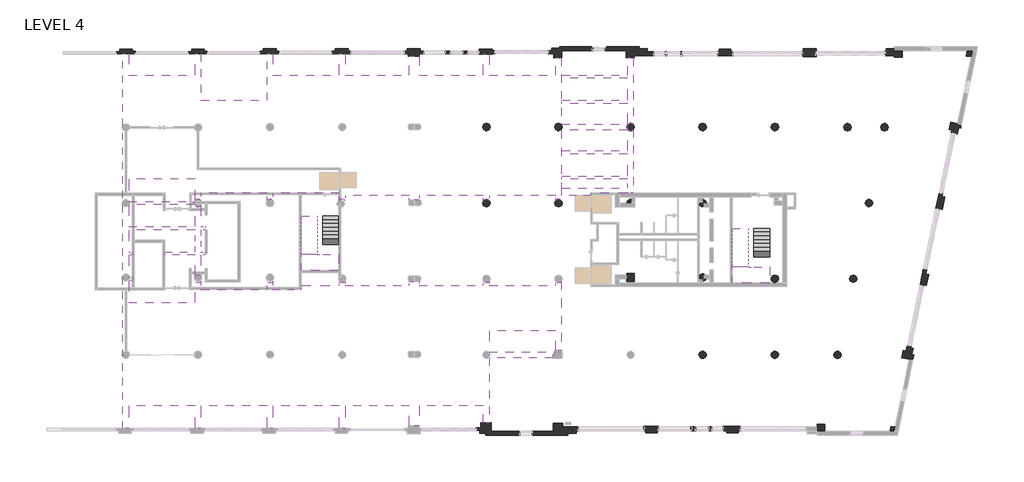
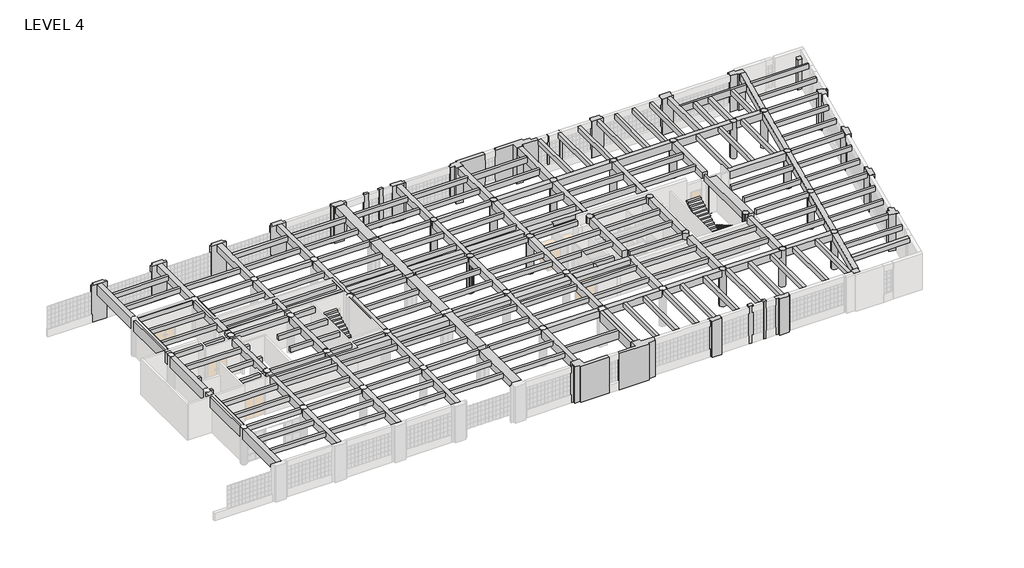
# One storey, part 26 of 26: 47 columns, 4 stair flights, 2 slabs, 1 beam.
"""IFC4 building model written with IfcOpenShell, lengths in millimetres."""

from ifc_helpers import new_model, si_unit, point, frame_2d, origin, origin_with_axes, place, context, project, spatial, polyline, circle_curve, trimmed, segment, composite_curve, outline, extrude, faceted_brep, transform, mapped, element, save
from components import existing_beams_existing_beams_2622cb17, existing_beams_existing_beams_62673a28, existing_beams_existing_beams_ab87c5f7, column_8a548fa0, column_79061b7a, columns_10_columns_1_1345206f, columns_11_columns_1_38dbda88, columns_15_columns_1_a5632d5a, columns_16_columns_1_e686ee1a, columns_18_columns_1_02ec0be3, columns_26_columns_1_af52d835, columns_27_columns_1_d9d9b695, columns_28_columns_1_034667f4, columns_4_columns_1_804c0b7f, columns_7_columns_1_82286abc, columns_9_columns_1_d757668a, column_50414aac, column_10b8ecd9, concrete_square_column_24_x_24_a4109c9c, precast_rectangular_column_10_x_12_6271d5be, precast_rectangular_column_15x_8_fcbcd41b, precast_rectangular_column_16_x_10_d0502e23, precast_rectangular_column_16_x_18_bd0b0462

model = new_model("IFC4")

# Units and contexts
model_context = context("Model", 3, world=origin())
ifc_project = project(units=[si_unit("LENGTHUNIT", "METRE", prefix="MILLI")], contexts=[model_context])

# Site, building, storey
site = spatial("IfcSite", under=ifc_project)
building = spatial("IfcBuilding", under=site)
storey = spatial("IfcBuildingStorey", under=building, Name="LEVEL 4", Elevation=0.0)

# Beam
placement = place(None, origin())
existing_beams_existing_beams_shape = existing_beams_existing_beams_2622cb17(model_context)
existing_beams_existing_beams_2_shape = existing_beams_existing_beams_62673a28(model_context)
existing_beams_existing_beams_3_shape = existing_beams_existing_beams_ab87c5f7(model_context)
element("IfcBeam", 1, ObjectType="Existing Beams : Existing Beams", at=placement, inside=storey, context=model_context, shape_type="MappedRepresentation", body=[
    mapped(existing_beams_existing_beams_shape, transform((0.0, 0.0, 0.0), x_axis=(1.0, 0.0, 0.0), y_axis=(0.0, 1.0, 0.0), z_axis=(0.0, 0.0, 1.0))),
    mapped(existing_beams_existing_beams_2_shape, transform((0.0, 0.0, 0.0), x_axis=(1.0, 0.0, 0.0), y_axis=(0.0, 1.0, 0.0), z_axis=(0.0, 0.0, 1.0))),
    mapped(existing_beams_existing_beams_3_shape, transform((0.0, 0.0, 0.0), x_axis=(1.0, 0.0, 0.0), y_axis=(0.0, 1.0, 0.0), z_axis=(0.0, 0.0, 1.0))),
])

# Columns
column_shape = column_8a548fa0(model_context)
element("IfcColumn", 2, ObjectType="COLUMN (SOUTHEAST CORNER) : COLUMN (SOUTHEAST CORNER)", at=placement, inside=storey, context=model_context, shape_type="MappedRepresentation", body=[
    mapped(column_shape, transform((0.0, 0.0, 0.0), x_axis=(1.0, 0.0, 0.0), y_axis=(0.0, 1.0, 0.0), z_axis=(0.0, 0.0, 1.0))),
])
column_2_shape = column_79061b7a(model_context)
element("IfcColumn", 3, ObjectType="COLUMN - NORTHEAST CORNER : COLUMN - NORTHEAST CORNER", at=placement, inside=storey, context=model_context, shape_type="MappedRepresentation", body=[
    mapped(column_2_shape, transform((0.0, 0.0, 0.0), x_axis=(1.0, 0.0, 0.0), y_axis=(0.0, 1.0, 0.0), z_axis=(0.0, 0.0, 1.0))),
])
columns_10_columns_1_shape = columns_10_columns_1_1345206f(model_context)
element("IfcColumn", 4, ObjectType="Columns 10 : Columns 1", at=placement, inside=storey, context=model_context, shape_type="MappedRepresentation", body=[
    mapped(columns_10_columns_1_shape, transform((0.0, 0.0, 0.0), x_axis=(1.0, 0.0, 0.0), y_axis=(0.0, 1.0, 0.0), z_axis=(0.0, 0.0, 1.0))),
])
columns_11_columns_1_shape = columns_11_columns_1_38dbda88(model_context)
element("IfcColumn", 5, ObjectType="Columns 11 : Columns 1", at=placement, inside=storey, context=model_context, shape_type="MappedRepresentation", body=[
    mapped(columns_11_columns_1_shape, transform((0.0, 0.0, 0.0), x_axis=(1.0, 0.0, 0.0), y_axis=(0.0, 1.0, 0.0), z_axis=(0.0, 0.0, 1.0))),
])
element("IfcColumn", 6, ObjectType="Columns 12 : Columns 1", at=placement, inside=storey, context=model_context, shape_type="SweptSolid", body=[
    extrude(outline(polyline([(21422.2248783, 106093.8583044), (21698.1909084, 106036.8748124), (21653.8999831, 105822.3777641), (21875.4385995, 105776.6328441), (21672.7354044, 104794.9591327), (21448.8583134, 104841.1869181), (21441.5996142, 104806.0336776), (21167.9720586, 104862.5343041), (21422.2248783, 106093.8583044)])), origin_with_axes(), (0.0, 0.0, 1.0), 3657.6),
])
element("IfcColumn", 7, ObjectType="Columns 13 : Columns 1", at=placement, inside=storey, context=model_context, shape_type="SweptSolid", body=[
    extrude(outline(polyline([(20180.5683622, 100086.739741), (20456.5343924, 100029.756249), (20387.2983583, 99694.4522374), (20608.8369748, 99648.7073174), (20423.9258332, 98753.1989535), (20201.2596835, 98799.1766949), (20188.3129879, 98736.4769893), (19913.4744911, 98793.2276599), (20180.5683622, 100086.739741)])), origin_with_axes(), (0.0, 0.0, 1.0), 3657.6),
])
element("IfcColumn", 8, ObjectType="Columns 14 : Columns 1", at=placement, inside=storey, context=model_context, shape_type="SweptSolid", body=[
    extrude(outline(polyline([(-9539.3085473, 117392.218307), (-9272.6085473, 117392.218307), (-9272.6085473, 117595.418307), (-8643.9585473, 117595.418307), (-8643.9585473, 117722.418307), (-6095.702993, 117722.418307), (-6095.702993, 117595.418307), (-6034.1085473, 117595.418307), (-6034.1085473, 117392.218307), (-8469.1684696, 117392.218307), (-8469.1684696, 116843.8805877), (-8469.1684696, 116831.1805877), (-9104.1684696, 116831.1805877), (-9104.1684696, 117138.218307), (-9539.3085473, 117138.218307), (-9539.3085473, 117392.218307)])), origin_with_axes(), (0.0, 0.0, 1.0), 3657.6),
    extrude(outline(polyline([(-5056.2085473, 117392.218307), (-5056.2085473, 117595.418307), (-4916.5085473, 117595.418307), (-4916.5085473, 117722.418307), (-2344.7585473, 117722.418307), (-2344.7585473, 117538.0497208), (-1715.7240125, 117538.0497208), (-1715.7240125, 117313.5591334), (-1177.9460473, 117313.5591334), (-1177.9460473, 117004.6497208), (-2731.7240125, 117004.6497208), (-2731.7240125, 116833.418307), (-3366.7240125, 116833.418307), (-3366.7240125, 117392.218307), (-5056.2085473, 117392.218307)])), origin_with_axes(), (0.0, 0.0, 1.0), 3657.6),
])
columns_15_columns_1_shape = columns_15_columns_1_a5632d5a(model_context)
element("IfcColumn", 9, ObjectType="Columns 15 : Columns 1", at=placement, inside=storey, context=model_context, shape_type="MappedRepresentation", body=[
    mapped(columns_15_columns_1_shape, transform((0.0, 0.0, 0.0), x_axis=(1.0, 0.0, 0.0), y_axis=(0.0, 1.0, 0.0), z_axis=(0.0, 0.0, 1.0))),
])
columns_16_columns_1_shape = columns_16_columns_1_e686ee1a(model_context)
element("IfcColumn", 10, ObjectType="Columns 16 : Columns 1", at=placement, inside=storey, context=model_context, shape_type="MappedRepresentation", body=[
    mapped(columns_16_columns_1_shape, transform((0.0, 0.0, 0.0), x_axis=(1.0, 0.0, 0.0), y_axis=(0.0, 1.0, 0.0), z_axis=(0.0, 0.0, 1.0))),
])
element("IfcColumn", 11, ObjectType="Columns 17 : Columns 1", at=placement, inside=storey, context=model_context, shape_type="SweptSolid", body=[
    extrude(outline(polyline([(18812.6683675, 93581.6110622), (18876.0353386, 93888.4917194), (18900.9105709, 93883.3552988), (18928.4926772, 94016.9330087), (19202.1202328, 93960.4323821), (19174.5381266, 93826.8546722), (19373.5399852, 93785.7633074), (19270.8116271, 93288.2589217), (19420.0623744, 93257.4372668), (19336.1417877, 92851.0603112), (18465.5086561, 93030.8350322), (18588.7827505, 93627.8406081), (18812.6683675, 93581.6110622)])), origin_with_axes(), (0.0, 0.0, 1.0), 3657.6),
])
columns_18_columns_1_shape = columns_18_columns_1_02ec0be3(model_context)
element("IfcColumn", 12, ObjectType="Columns 18 : Columns 1", at=placement, inside=storey, context=model_context, shape_type="MappedRepresentation", body=[
    mapped(columns_18_columns_1_shape, transform((0.0, 0.0, 0.0), x_axis=(1.0, 0.0, 0.0), y_axis=(0.0, 1.0, 0.0), z_axis=(0.0, 0.0, 1.0))),
])
element("IfcColumn", 13, ObjectType="Columns 19 : Columns 1", at=placement, inside=storey, context=model_context, shape_type="SweptSolid", body=[
    extrude(outline(polyline([(17870.8181141, 117008.7591334), (17164.328891, 117008.7591334), (17164.328891, 117341.3251661), (17232.2914527, 117341.3251661), (17232.2914527, 117542.1591334), (17870.8181141, 117542.1591334), (17870.8181141, 117392.3555855), (18505.8181141, 117392.3555855), (18505.8181141, 116858.9555855), (17870.8181141, 116858.9555855), (17870.8181141, 117008.7591334)])), origin_with_axes(), (0.0, 0.0, 1.0), 3657.6),
])
element("IfcColumn", 14, ObjectType="Columns 25 : Columns 1", at=placement, inside=storey, context=model_context, shape_type="SweptSolid", body=[
    extrude(outline(polyline([(-155.5960473, 117313.0919271), (-155.5960473, 117006.7044271), (-263.5460473, 117006.7044271), (-263.5460473, 117313.0919271), (-155.5960473, 117313.0919271)])), origin_with_axes(), (0.0, 0.0, 1.0), 3657.6),
    extrude(outline(polyline([(1082.6539527, 117313.8856771), (1082.6539527, 117008.7591334), (936.6039527, 117008.7591334), (936.6039527, 117313.8856771), (1082.6539527, 117313.8856771)])), origin_with_axes(), (0.0, 0.0, 1.0), 3657.6),
])
columns_26_columns_1_shape = columns_26_columns_1_af52d835(model_context)
element("IfcColumn", 15, ObjectType="Columns 26 : Columns 1", at=placement, inside=storey, context=model_context, shape_type="MappedRepresentation", body=[
    mapped(columns_26_columns_1_shape, transform((0.0, 0.0, 0.0), x_axis=(1.0, 0.0, 0.0), y_axis=(0.0, 1.0, 0.0), z_axis=(0.0, 0.0, 1.0))),
])
columns_27_columns_1_shape = columns_27_columns_1_d9d9b695(model_context)
element("IfcColumn", 16, ObjectType="Columns 27 : Columns 1", at=placement, inside=storey, context=model_context, shape_type="MappedRepresentation", body=[
    mapped(columns_27_columns_1_shape, transform((0.0, 0.0, 0.0), x_axis=(1.0, 0.0, 0.0), y_axis=(0.0, 1.0, 0.0), z_axis=(0.0, 0.0, 1.0))),
])
columns_28_columns_1_shape = columns_28_columns_1_034667f4(model_context)
element("IfcColumn", 17, ObjectType="Columns 28 : Columns 1", at=placement, inside=storey, context=model_context, shape_type="MappedRepresentation", body=[
    mapped(columns_28_columns_1_shape, transform((0.0, 0.0, 0.0), x_axis=(1.0, 0.0, 0.0), y_axis=(0.0, 1.0, 0.0), z_axis=(0.0, 0.0, 1.0))),
])
columns_4_columns_1_shape = columns_4_columns_1_804c0b7f(model_context)
element("IfcColumn", 18, ObjectType="Columns 4 : Columns 1", at=placement, inside=storey, context=model_context, shape_type="MappedRepresentation", body=[
    mapped(columns_4_columns_1_shape, transform((36036.7637029, 0.0, 0.0), x_axis=(1.0, 0.0, 0.0), y_axis=(0.0, 1.0, 0.0), z_axis=(0.0, 0.0, 1.0))),
])
element("IfcColumn", 19, ObjectType="Columns 5 : Columns 1", at=placement, inside=storey, context=model_context, shape_type="SweptSolid", body=[
    extrude(outline(polyline([(3901.9266719, 117006.9515335), (3901.9266719, 117313.5591334), (4018.3259875, 117313.5591334), (4018.3259875, 117522.8097208), (4933.4610826, 117522.8097208), (4933.4610826, 117315.7445551), (5055.7027262, 117315.7445551), (5055.7027262, 117006.9515335), (3901.9266719, 117006.9515335)])), origin_with_axes(), (0.0, 0.0, 1.0), 3657.6),
])
columns_7_columns_1_shape = columns_7_columns_1_82286abc(model_context)
element("IfcColumn", 20, ObjectType="Columns 7 : Columns 1", at=placement, inside=storey, context=model_context, shape_type="MappedRepresentation", body=[
    mapped(columns_7_columns_1_shape, transform((42437.5637029, 0.0, 0.0), x_axis=(1.0, 0.0, 0.0), y_axis=(0.0, 1.0, 0.0), z_axis=(0.0, 0.0, 1.0))),
])
element("IfcColumn", 21, ObjectType="Columns 8 : Columns 1", at=placement, inside=storey, context=model_context, shape_type="SweptSolid", body=[
    extrude(outline(polyline([(10667.367141, 116923.9158066), (10667.367141, 117008.7591334), (10567.7656776, 117008.7591334), (10567.7656776, 117314.557844), (10667.367141, 117314.557844), (10667.367141, 117534.2397208), (11684.0459875, 117534.2397208), (11684.0459875, 117341.3251661), (11651.9290144, 117341.3251661), (11651.9290144, 117008.7591334), (11684.0459875, 117008.7591334), (11684.0459875, 116923.9158066), (10667.367141, 116923.9158066)])), origin_with_axes(), (0.0, 0.0, 1.0), 3657.6),
])
columns_9_columns_1_shape = columns_9_columns_1_d757668a(model_context)
element("IfcColumn", 22, ObjectType="Columns 9 : Columns 1", at=placement, inside=storey, context=model_context, shape_type="MappedRepresentation", body=[
    mapped(columns_9_columns_1_shape, transform((0.0, 0.0, 0.0), x_axis=(1.0, 0.0, 0.0), y_axis=(0.0, 1.0, 0.0), z_axis=(0.0, 0.0, 1.0))),
])
column_3_shape = column_50414aac(model_context)
element("IfcColumn", 23, ObjectType="Concrete-Round-Column : 12\"", at=placement, inside=storey, context=model_context, shape_type="MappedRepresentation", body=[
    mapped(column_3_shape, transform((-3020.3923152, 105304.1579212, 0.0), x_axis=(1.0, 0.0, 0.0), y_axis=(0.0, 1.0, 0.0), z_axis=(0.0, 0.0, 1.0))),
])
element("IfcColumn", 24, ObjectType="Concrete-Round-Column : 12\"", at=placement, inside=storey, context=model_context, shape_type="MappedRepresentation", body=[
    mapped(column_3_shape, transform((8506.3689597, 105303.3164461, 0.0), x_axis=(1.0, 0.0, 0.0), y_axis=(0.0, 1.0, 0.0), z_axis=(0.0, 0.0, 1.0))),
])
element("IfcColumn", 25, ObjectType="Concrete-Round-Column : 24\"", at=placement, inside=storey, context=model_context, shape_type="SweptSolid", body=[
    extrude(outline(composite_curve([segment(trimmed(circle_curve(frame_2d((-14455.6509089, 111331.8591334)), 304.8), [point((-14760.4509089, 111331.8591334))], [point((-14150.8509089, 111331.8591334))], False, "CARTESIAN"), True, "CONTINUOUS"), segment(trimmed(circle_curve(frame_2d((-14455.6509089, 111331.8591334)), 304.8), [point((-14150.8509089, 111331.8591334))], [point((-14760.4509089, 111331.8591334))], False, "CARTESIAN"), True, "CONTINUOUS")], self_intersect=False)), origin_with_axes(), (0.0, 0.0, 1.0), 3657.6),
])
element("IfcColumn", 26, ObjectType="Concrete-Round-Column : 24\"", at=placement, inside=storey, context=model_context, shape_type="SweptSolid", body=[
    extrude(outline(composite_curve([segment(trimmed(circle_curve(frame_2d((-8740.6509089, 111331.8591334)), 304.8), [point((-9045.4509089, 111331.8591334))], [point((-8435.8509089, 111331.8591334))], False, "CARTESIAN"), True, "CONTINUOUS"), segment(trimmed(circle_curve(frame_2d((-8740.6509089, 111331.8591334)), 304.8), [point((-8435.8509089, 111331.8591334))], [point((-9045.4509089, 111331.8591334))], False, "CARTESIAN"), True, "CONTINUOUS")], self_intersect=False)), origin_with_axes(), (0.0, 0.0, 1.0), 3657.6),
])
element("IfcColumn", 27, ObjectType="Concrete-Round-Column : 24\"", at=placement, inside=storey, context=model_context, shape_type="SweptSolid", body=[
    extrude(outline(composite_curve([segment(trimmed(circle_curve(frame_2d((15864.8361522, 105303.3164461)), 304.8), [point((15560.0361522, 105303.3164461))], [point((16169.6361522, 105303.3164461))], False, "CARTESIAN"), True, "CONTINUOUS"), segment(trimmed(circle_curve(frame_2d((15864.8361522, 105303.3164461)), 304.8), [point((16169.6361522, 105303.3164461))], [point((15560.0361522, 105303.3164461))], False, "CARTESIAN"), True, "CONTINUOUS")], self_intersect=False)), origin_with_axes(), (0.0, 0.0, 1.0), 3657.6),
])
element("IfcColumn", 28, ObjectType="Concrete-Round-Column : 24\"", at=placement, inside=storey, context=model_context, shape_type="SweptSolid", body=[
    extrude(outline(composite_curve([segment(trimmed(circle_curve(frame_2d((17107.7971305, 111318.8641363)), 304.8), [point((16802.9971305, 111318.8641363))], [point((17412.5971305, 111318.8641363))], False, "CARTESIAN"), True, "CONTINUOUS"), segment(trimmed(circle_curve(frame_2d((17107.7971305, 111318.8641363)), 304.8), [point((17412.5971305, 111318.8641363))], [point((16802.9971305, 111318.8641363))], False, "CARTESIAN"), True, "CONTINUOUS")], self_intersect=False)), origin_with_axes(), (0.0, 0.0, 1.0), 3657.6),
])
element("IfcColumn", 29, ObjectType="Concrete-Round-Column : 24\"", at=placement, inside=storey, context=model_context, shape_type="SweptSolid", body=[
    extrude(outline(composite_curve([segment(trimmed(circle_curve(frame_2d((14161.3971305, 111318.8641363)), 304.8), [point((13856.5971305, 111318.8641363))], [point((14466.1971305, 111318.8641363))], False, "CARTESIAN"), True, "CONTINUOUS"), segment(trimmed(circle_curve(frame_2d((14161.3971305, 111318.8641363)), 304.8), [point((14466.1971305, 111318.8641363))], [point((13856.5971305, 111318.8641363))], False, "CARTESIAN"), True, "CONTINUOUS")], self_intersect=False)), origin_with_axes(), (0.0, 0.0, 1.0), 3657.6),
])
element("IfcColumn", 30, ObjectType="Concrete-Round-Column : 24\"", at=placement, inside=storey, context=model_context, shape_type="SweptSolid", body=[
    extrude(outline(composite_curve([segment(trimmed(circle_curve(frame_2d((8404.3490911, 111331.8591334)), 304.8), [point((8099.5490911, 111331.8591334))], [point((8709.1490911, 111331.8591334))], False, "CARTESIAN"), True, "CONTINUOUS"), segment(trimmed(circle_curve(frame_2d((8404.3490911, 111331.8591334)), 304.8), [point((8709.1490911, 111331.8591334))], [point((8099.5490911, 111331.8591334))], False, "CARTESIAN"), True, "CONTINUOUS")], self_intersect=False)), origin_with_axes(), (0.0, 0.0, 1.0), 3657.6),
])
element("IfcColumn", 31, ObjectType="Concrete-Round-Column : 24\"", at=placement, inside=storey, context=model_context, shape_type="SweptSolid", body=[
    extrude(outline(composite_curve([segment(trimmed(circle_curve(frame_2d((2689.3490911, 111331.8591334)), 304.8), [point((2384.5490911, 111331.8591334))], [point((2994.1490911, 111331.8591334))], False, "CARTESIAN"), True, "CONTINUOUS"), segment(trimmed(circle_curve(frame_2d((2689.3490911, 111331.8591334)), 304.8), [point((2994.1490911, 111331.8591334))], [point((2384.5490911, 111331.8591334))], False, "CARTESIAN"), True, "CONTINUOUS")], self_intersect=False)), origin_with_axes(), (0.0, 0.0, 1.0), 3657.6),
])
element("IfcColumn", 32, ObjectType="Concrete-Round-Column : 24\"", at=placement, inside=storey, context=model_context, shape_type="SweptSolid", body=[
    extrude(outline(composite_curve([segment(trimmed(circle_curve(frame_2d((-3020.3923152, 111331.8591334)), 304.8), [point((-3325.1923152, 111331.8591334))], [point((-2715.5923152, 111331.8591334))], False, "CARTESIAN"), True, "CONTINUOUS"), segment(trimmed(circle_curve(frame_2d((-3020.3923152, 111331.8591334)), 304.8), [point((-2715.5923152, 111331.8591334))], [point((-3325.1923152, 111331.8591334))], False, "CARTESIAN"), True, "CONTINUOUS")], self_intersect=False)), origin_with_axes(), (0.0, 0.0, 1.0), 3657.6),
])
element("IfcColumn", 33, ObjectType="Concrete-Round-Column : 24\"", at=placement, inside=storey, context=model_context, shape_type="SweptSolid", body=[
    extrude(outline(composite_curve([segment(trimmed(circle_curve(frame_2d((14623.14995, 99290.3931698)), 304.8), [point((14318.34995, 99290.3931698))], [point((14927.94995, 99290.3931698))], False, "CARTESIAN"), True, "CONTINUOUS"), segment(trimmed(circle_curve(frame_2d((14623.14995, 99290.3931698)), 304.8), [point((14927.94995, 99290.3931698))], [point((14318.34995, 99290.3931698))], False, "CARTESIAN"), True, "CONTINUOUS")], self_intersect=False)), origin_with_axes(), (0.0, 0.0, 1.0), 3657.6),
])
element("IfcColumn", 34, ObjectType="Concrete-Round-Column : 24\"", at=placement, inside=storey, context=model_context, shape_type="SweptSolid", body=[
    extrude(outline(composite_curve([segment(trimmed(circle_curve(frame_2d((-14455.6509089, 105303.3164461)), 304.8), [point((-14760.4509089, 105303.3164461))], [point((-14150.8509089, 105303.3164461))], False, "CARTESIAN"), True, "CONTINUOUS"), segment(trimmed(circle_curve(frame_2d((-14455.6509089, 105303.3164461)), 304.8), [point((-14150.8509089, 105303.3164461))], [point((-14760.4509089, 105303.3164461))], False, "CARTESIAN"), True, "CONTINUOUS")], self_intersect=False)), origin_with_axes(), (0.0, 0.0, 1.0), 3657.6),
])
column_4_shape = column_10b8ecd9(model_context)
element("IfcColumn", 35, ObjectType="Concrete-Round-Column : 24\"", at=placement, inside=storey, context=model_context, shape_type="MappedRepresentation", body=[
    mapped(column_4_shape, transform((2689.3490911, 99393.8591334, 0.0), x_axis=(1.0, 0.0, 0.0), y_axis=(0.0, 1.0, 0.0), z_axis=(0.0, 0.0, 1.0))),
])
element("IfcColumn", 36, ObjectType="Concrete-Round-Column : 24\"", at=placement, inside=storey, context=model_context, shape_type="MappedRepresentation", body=[
    mapped(column_4_shape, transform((-3020.3923152, 105303.3164461, 0.0), x_axis=(1.0, 0.0, 0.0), y_axis=(0.0, 1.0, 0.0), z_axis=(0.0, 0.0, 1.0))),
])
element("IfcColumn", 37, ObjectType="Concrete-Round-Column : 24\"", at=placement, inside=storey, context=model_context, shape_type="MappedRepresentation", body=[
    mapped(column_4_shape, transform((8404.3490911, 99290.3931698, 0.0), x_axis=(1.0, 0.0, 0.0), y_axis=(0.0, 1.0, 0.0), z_axis=(0.0, 0.0, 1.0))),
])
element("IfcColumn", 38, ObjectType="Concrete-Round-Column : 24\"", at=placement, inside=storey, context=model_context, shape_type="MappedRepresentation", body=[
    mapped(column_4_shape, transform((2689.3490911, 93257.4589024, 0.0), x_axis=(1.0, 0.0, 0.0), y_axis=(0.0, 1.0, 0.0), z_axis=(0.0, 0.0, 1.0))),
])
element("IfcColumn", 39, ObjectType="Concrete-Round-Column : 24\"", at=placement, inside=storey, context=model_context, shape_type="MappedRepresentation", body=[
    mapped(column_4_shape, transform((8404.3490911, 93257.4589024, 0.0), x_axis=(1.0, 0.0, 0.0), y_axis=(0.0, 1.0, 0.0), z_axis=(0.0, 0.0, 1.0))),
])
element("IfcColumn", 40, ObjectType="Concrete-Round-Column : 24\"", at=placement, inside=storey, context=model_context, shape_type="MappedRepresentation", body=[
    mapped(column_4_shape, transform((13377.9909408, 93257.4589024, 0.0), x_axis=(1.0, 0.0, 0.0), y_axis=(0.0, 1.0, 0.0), z_axis=(0.0, 0.0, 1.0))),
])
element("IfcColumn", 41, ObjectType="Concrete-Round-Column : 24\"", at=placement, inside=storey, context=model_context, shape_type="MappedRepresentation", body=[
    mapped(column_4_shape, transform((-8740.6509089, 105303.3164461, 0.0), x_axis=(1.0, 0.0, 0.0), y_axis=(0.0, 1.0, 0.0), z_axis=(0.0, 0.0, 1.0))),
])
element("IfcColumn", 42, ObjectType="Concrete-Round-Column : 24\"", at=placement, inside=storey, context=model_context, shape_type="MappedRepresentation", body=[
    mapped(column_4_shape, transform((2689.3490911, 105303.3164461, 0.0), x_axis=(1.0, 0.0, 0.0), y_axis=(0.0, 1.0, 0.0), z_axis=(0.0, 0.0, 1.0))),
])
element("IfcColumn", 43, ObjectType="Concrete-Round-Column : 24\"", at=placement, inside=storey, context=model_context, shape_type="MappedRepresentation", body=[
    mapped(column_4_shape, transform((-14455.6509089, 105303.3164461, 0.0), x_axis=(1.0, 0.0, 0.0), y_axis=(0.0, 1.0, 0.0), z_axis=(0.0, 0.0, 1.0))),
])
concrete_square_column_24_x_24_shape = concrete_square_column_24_x_24_a4109c9c(model_context)
element("IfcColumn", 44, ObjectType="Concrete-Square-Column : 24 x 24", at=placement, inside=storey, context=model_context, shape_type="MappedRepresentation", body=[
    mapped(concrete_square_column_24_x_24_shape, transform((-3020.3923152, 99393.8591334, 0.0), x_axis=(1.0, 0.0, 0.0), y_axis=(0.0, 1.0, 0.0), z_axis=(0.0, 0.0, 1.0))),
])
precast_rectangular_column_10_x_12_shape = precast_rectangular_column_10_x_12_6271d5be(model_context)
element("IfcColumn", 45, ObjectType="Precast-Rectangular Column : 10 X 12", at=placement, inside=storey, context=model_context, shape_type="MappedRepresentation", body=[
    mapped(precast_rectangular_column_10_x_12_shape, transform((3287.6914527, 87390.0589024, 0.0), x_axis=(1.0, 0.0, 0.0), y_axis=(0.0, 1.0, 0.0), z_axis=(0.0, 0.0, 1.0))),
])
precast_rectangular_column_15x_8_shape = precast_rectangular_column_15x_8_fcbcd41b(model_context)
element("IfcColumn", 46, ObjectType="Precast-Rectangular Column : 15X 8", at=placement, inside=storey, context=model_context, shape_type="MappedRepresentation", body=[
    mapped(precast_rectangular_column_15x_8_shape, transform((-16136.9585473, 117237.3591334, 0.0), x_axis=(1.0, 0.0, 0.0), y_axis=(0.0, 1.0, 0.0), z_axis=(0.0, 0.0, 1.0))),
])
precast_rectangular_column_16_x_10_shape = precast_rectangular_column_16_x_10_d0502e23(model_context)
element("IfcColumn", 47, ObjectType="Precast-Rectangular Column : 16 X 10", at=placement, inside=storey, context=model_context, shape_type="MappedRepresentation", body=[
    mapped(precast_rectangular_column_16_x_10_shape, transform((1947.8414527, 87390.0589024, 0.0), x_axis=(1.0, 0.0, 0.0), y_axis=(0.0, 1.0, 0.0), z_axis=(0.0, 0.0, 1.0))),
])
precast_rectangular_column_16_x_18_shape = precast_rectangular_column_16_x_18_bd0b0462(model_context)
element("IfcColumn", 48, ObjectType="Precast-Rectangular Column : 16 X 18", at=placement, inside=storey, context=model_context, shape_type="MappedRepresentation", body=[
    mapped(precast_rectangular_column_16_x_18_shape, transform((-17521.2585473, 117237.3591334, 0.0), x_axis=(1.0, 0.0, 0.0), y_axis=(0.0, 1.0, 0.0), z_axis=(0.0, 0.0, 1.0))),
])

# Slabs
element("IfcSlab", 49, ObjectType="7\" Thickness", at=placement, inside=storey, context=model_context, shape_type="Brep", body=[
    faceted_brep([(-27428.7009089, 101229.0091334, 1905.0), (-26158.7009089, 101229.0091334, 1905.0), (-26158.7009089, 101209.9591334, 1731.8181818), (-27428.7009089, 101209.9591334, 1731.8181818), (-27857.2685042, 101229.0091334, 1905.0), (-27857.2685042, 101248.0591334, 1905.0), (-29127.2685042, 101248.0591334, 1905.0), (-29127.2685042, 101229.0091334, 1905.0), (-29127.2685042, 101063.6711957, 1905.0), (-29127.2685042, 99959.0091334, 1905.0), (-26158.7009089, 99959.0091334, 1905.0), (-26158.7009089, 101089.5470712, 1905.0), (-26158.7009089, 101209.9591334, 1658.7840555), (-27428.7009089, 101209.9591334, 1658.7840555), (-27428.7009089, 101209.9591334, 1727.2), (-27428.7009089, 101229.0091334, 1727.2), (-27857.2685042, 101229.0091334, 1727.2), (-27857.2685042, 101229.0091334, 1821.1420101), (-27857.2685042, 101248.0591334, 1831.9658737), (-29127.2685042, 101248.0591334, 1831.9658737), (-29127.2685042, 101229.0091334, 1821.1420101), (-29127.2685042, 101063.6711957, 1727.2), (-29127.2685042, 99959.0091334, 1727.2), (-26158.7009089, 99959.0091334, 1727.2), (-26158.7009089, 101089.5470712, 1727.2), (-27857.2685042, 101063.6711957, 1727.2), (-27428.7009089, 101089.5470712, 1727.2)], [[[0, 1, 2, 3]], [[0, 4, 5, 6, 7, 8, 9, 10, 11, 1]], [[3, 2, 12, 13, 14]], [[0, 3, 14, 15]], [[4, 0, 15, 16, 17]], [[5, 4, 17, 18]], [[6, 5, 18, 19]], [[7, 6, 19, 20]], [[7, 20, 21, 22, 9, 8]], [[10, 9, 22, 23]], [[2, 1, 11, 10, 23, 24, 12]], [[25, 16, 15, 14, 26, 24, 23, 22, 21]], [[16, 25, 17]], [[24, 26, 13, 12]], [[26, 14, 13]], [[25, 21, 20, 19, 18, 17]]]),
])
element("IfcSlab", 50, ObjectType="7\" Thickness", at=placement, inside=storey, context=model_context, shape_type="Brep", body=[
    faceted_brep([(6734.5043304, 100249.4320808, 1905.0), (8004.5043304, 100249.4320808, 1905.0), (8004.5043304, 100230.3820808, 1731.8181818), (6734.5043304, 100230.3820808, 1731.8181818), (6305.9367351, 100249.4320808, 1905.0), (6305.9367351, 100268.4820808, 1905.0), (5035.9367351, 100268.4820808, 1905.0), (5035.9367351, 100249.4320808, 1905.0), (5035.9367351, 100084.094143, 1905.0), (5035.9367351, 98979.4320808, 1905.0), (8004.5043304, 98979.4320808, 1905.0), (8004.5043304, 100109.9700185, 1905.0), (8004.5043304, 100230.3820808, 1658.7840555), (6734.5043304, 100230.3820808, 1658.7840555), (6734.5043304, 100230.3820808, 1727.2), (6734.5043304, 100249.4320808, 1727.2), (6305.9367351, 100249.4320808, 1727.2), (6305.9367351, 100249.4320808, 1821.1420101), (6305.9367351, 100268.4820808, 1831.9658737), (5035.9367351, 100268.4820808, 1831.9658737), (5035.9367351, 100249.4320808, 1821.1420101), (5035.9367351, 100084.094143, 1727.2), (5035.9367351, 98979.4320808, 1727.2), (8004.5043304, 98979.4320808, 1727.2), (8004.5043304, 100109.9700185, 1727.2), (6305.9367351, 100084.094143, 1727.2), (6734.5043304, 100109.9700185, 1727.2)], [[[0, 1, 2, 3]], [[0, 4, 5, 6, 7, 8, 9, 10, 11, 1]], [[3, 2, 12, 13, 14]], [[0, 3, 14, 15]], [[4, 0, 15, 16, 17]], [[5, 4, 17, 18]], [[6, 5, 18, 19]], [[7, 6, 19, 20]], [[7, 20, 21, 22, 9, 8]], [[10, 9, 22, 23]], [[2, 1, 11, 10, 23, 24, 12]], [[25, 16, 15, 14, 26, 24, 23, 22, 21]], [[16, 25, 17]], [[24, 26, 13, 12]], [[26, 14, 13]], [[25, 21, 20, 19, 18, 17]]]),
])

# Stair flights
element("IfcStairFlight", 51, ObjectType="3/4\" Nosing", at=placement, inside=storey, context=model_context, shape_type="Brep", body=[
    faceted_brep([(-27428.7009089, 104277.0091334, 173.1818182), (-26158.7009089, 104277.0091334, 173.1818182), (-26158.7009089, 104257.9591334, 0.0), (-27428.7009089, 104257.9591334, 0.0), (-27428.7009089, 103953.1591334, 173.1818182), (-26158.7009089, 103953.1591334, 173.1818182), (-26158.7009089, 103953.1591334, 100.1476919), (-26158.7009089, 104129.4190712, 0.0), (-27428.7009089, 104129.4190712, 0.0), (-27428.7009089, 103953.1591334, 100.1476919), (-26158.7009089, 103972.2091334, 346.3636364), (-27428.7009089, 103972.2091334, 346.3636364), (-27428.7009089, 103648.3591334, 346.3636364), (-26158.7009089, 103648.3591334, 346.3636364), (-26158.7009089, 103648.3591334, 273.3295101), (-27428.7009089, 103648.3591334, 273.3295101), (-26158.7009089, 103667.4091334, 519.5454545), (-27428.7009089, 103667.4091334, 519.5454545), (-27428.7009089, 103343.5591334, 519.5454545), (-26158.7009089, 103343.5591334, 519.5454545), (-26158.7009089, 103343.5591334, 446.5113283), (-27428.7009089, 103343.5591334, 446.5113283), (-26158.7009089, 103362.6091334, 692.7272727), (-27428.7009089, 103362.6091334, 692.7272727), (-27428.7009089, 103038.7591334, 692.7272727), (-26158.7009089, 103038.7591334, 692.7272727), (-26158.7009089, 103038.7591334, 619.6931465), (-27428.7009089, 103038.7591334, 619.6931465), (-26158.7009089, 103057.8091334, 865.9090909), (-27428.7009089, 103057.8091334, 865.9090909), (-27428.7009089, 102733.9591334, 865.9090909), (-26158.7009089, 102733.9591334, 865.9090909), (-26158.7009089, 102733.9591334, 792.8749646), (-27428.7009089, 102733.9591334, 792.8749646), (-26158.7009089, 102753.0091334, 1039.0909091), (-27428.7009089, 102753.0091334, 1039.0909091), (-27428.7009089, 102429.1591334, 1039.0909091), (-26158.7009089, 102429.1591334, 1039.0909091), (-26158.7009089, 102429.1591334, 966.0567828), (-27428.7009089, 102429.1591334, 966.0567828), (-26158.7009089, 102448.2091334, 1212.2727273), (-27428.7009089, 102448.2091334, 1212.2727273), (-27428.7009089, 102124.3591334, 1212.2727273), (-26158.7009089, 102124.3591334, 1212.2727273), (-26158.7009089, 102124.3591334, 1139.238601), (-27428.7009089, 102124.3591334, 1139.238601), (-26158.7009089, 102143.4091334, 1385.4545455), (-27428.7009089, 102143.4091334, 1385.4545455), (-27428.7009089, 101819.5591334, 1385.4545455), (-26158.7009089, 101819.5591334, 1385.4545455), (-26158.7009089, 101819.5591334, 1312.4204192), (-27428.7009089, 101819.5591334, 1312.4204192), (-26158.7009089, 101838.6091334, 1558.6363636), (-27428.7009089, 101838.6091334, 1558.6363636), (-27428.7009089, 101514.7591334, 1558.6363636), (-26158.7009089, 101514.7591334, 1558.6363636), (-26158.7009089, 101514.7591334, 1485.6022374), (-27428.7009089, 101514.7591334, 1485.6022374), (-26158.7009089, 101209.9591334, 1731.8181818), (-26158.7009089, 101229.0091334, 1731.8181818), (-26158.7009089, 101533.8091334, 1731.8181818), (-27428.7009089, 101533.8091334, 1731.8181818), (-27428.7009089, 101229.0091334, 1731.8181818), (-27428.7009089, 101209.9591334, 1731.8181818), (-26158.7009089, 101209.9591334, 1658.7840555), (-26158.7009089, 101229.0091334, 1647.9601919), (-27428.7009089, 101209.9591334, 1658.7840555), (-27428.7009089, 101209.9591334, 1727.2)], [[[0, 1, 2, 3]], [[1, 0, 4, 5]], [[1, 5, 6, 7, 2]], [[4, 0, 3, 8, 9]], [[10, 11, 12, 13]], [[10, 13, 14, 6, 5]], [[12, 11, 4, 9, 15]], [[5, 4, 11, 10]], [[16, 17, 18, 19]], [[16, 19, 20, 14, 13]], [[18, 17, 12, 15, 21]], [[13, 12, 17, 16]], [[22, 23, 24, 25]], [[22, 25, 26, 20, 19]], [[24, 23, 18, 21, 27]], [[19, 18, 23, 22]], [[28, 29, 30, 31]], [[28, 31, 32, 26, 25]], [[30, 29, 24, 27, 33]], [[25, 24, 29, 28]], [[34, 35, 36, 37]], [[34, 37, 38, 32, 31]], [[36, 35, 30, 33, 39]], [[31, 30, 35, 34]], [[40, 41, 42, 43]], [[40, 43, 44, 38, 37]], [[42, 41, 36, 39, 45]], [[37, 36, 41, 40]], [[46, 47, 48, 49]], [[46, 49, 50, 44, 43]], [[48, 47, 42, 45, 51]], [[43, 42, 47, 46]], [[52, 53, 54, 55]], [[52, 55, 56, 50, 49]], [[54, 53, 48, 51, 57]], [[49, 48, 53, 52]], [[58, 59, 60, 61, 62, 63]], [[59, 58, 64, 65]], [[61, 54, 57, 66, 67, 63, 62]], [[58, 63, 67, 66, 64]], [[55, 54, 61, 60]], [[3, 2, 7, 8]], [[8, 7, 6, 14, 20, 26, 32, 38, 44, 50, 56, 65, 64, 66, 57, 51, 45, 39, 33, 27, 21, 15, 9]], [[60, 59, 65, 56, 55]]]),
])
element("IfcStairFlight", 52, ObjectType="3/4\" Nosing", at=placement, inside=storey, context=model_context, shape_type="Brep", body=[
    faceted_brep([(-27857.2685042, 101229.0091334, 2078.1818182), (-29127.2685042, 101229.0091334, 2078.1818182), (-29127.2685042, 101248.0591334, 1905.0), (-27857.2685042, 101248.0591334, 1905.0), (-27857.2685042, 101552.8591334, 2078.1818182), (-29127.2685042, 101552.8591334, 2078.1818182), (-29127.2685042, 101552.8591334, 2005.1476919), (-29127.2685042, 101248.0591334, 1831.9658737), (-27857.2685042, 101248.0591334, 1831.9658737), (-27857.2685042, 101552.8591334, 2005.1476919), (-29127.2685042, 101533.8091334, 2251.3636364), (-27857.2685042, 101533.8091334, 2251.3636364), (-27857.2685042, 101857.6591334, 2251.3636364), (-29127.2685042, 101857.6591334, 2251.3636364), (-29127.2685042, 101857.6591334, 2178.3295101), (-27857.2685042, 101857.6591334, 2178.3295101), (-29127.2685042, 101838.6091334, 2424.5454545), (-27857.2685042, 101838.6091334, 2424.5454545), (-27857.2685042, 102162.4591334, 2424.5454545), (-29127.2685042, 102162.4591334, 2424.5454545), (-29127.2685042, 102162.4591334, 2351.5113283), (-27857.2685042, 102162.4591334, 2351.5113283), (-29127.2685042, 102143.4091334, 2597.7272727), (-27857.2685042, 102143.4091334, 2597.7272727), (-27857.2685042, 102467.2591334, 2597.7272727), (-29127.2685042, 102467.2591334, 2597.7272727), (-29127.2685042, 102467.2591334, 2524.6931465), (-27857.2685042, 102467.2591334, 2524.6931465), (-29127.2685042, 102448.2091334, 2770.9090909), (-27857.2685042, 102448.2091334, 2770.9090909), (-27857.2685042, 102772.0591334, 2770.9090909), (-29127.2685042, 102772.0591334, 2770.9090909), (-29127.2685042, 102772.0591334, 2697.8749646), (-27857.2685042, 102772.0591334, 2697.8749646), (-29127.2685042, 102753.0091334, 2944.0909091), (-27857.2685042, 102753.0091334, 2944.0909091), (-27857.2685042, 103076.8591334, 2944.0909091), (-29127.2685042, 103076.8591334, 2944.0909091), (-29127.2685042, 103076.8591334, 2871.0567828), (-27857.2685042, 103076.8591334, 2871.0567828), (-29127.2685042, 103057.8091334, 3117.2727273), (-27857.2685042, 103057.8091334, 3117.2727273), (-27857.2685042, 103381.6591334, 3117.2727273), (-29127.2685042, 103381.6591334, 3117.2727273), (-29127.2685042, 103381.6591334, 3044.238601), (-27857.2685042, 103381.6591334, 3044.238601), (-29127.2685042, 103362.6091334, 3290.4545455), (-27857.2685042, 103362.6091334, 3290.4545455), (-27857.2685042, 103686.4591334, 3290.4545455), (-29127.2685042, 103686.4591334, 3290.4545455), (-29127.2685042, 103686.4591334, 3217.4204192), (-27857.2685042, 103686.4591334, 3217.4204192), (-29127.2685042, 103667.4091334, 3463.6363636), (-27857.2685042, 103667.4091334, 3463.6363636), (-27857.2685042, 103991.2591334, 3463.6363636), (-29127.2685042, 103991.2591334, 3463.6363636), (-29127.2685042, 103991.2591334, 3390.6022374), (-27857.2685042, 103991.2591334, 3390.6022374), (-29127.2685042, 103972.2091334, 3636.8181818), (-27857.2685042, 103972.2091334, 3636.8181818), (-27857.2685042, 104277.0091334, 3636.8181818), (-29127.2685042, 104277.0091334, 3636.8181818), (-29127.2685042, 104277.0091334, 3552.9601919), (-27857.2685042, 104277.0091334, 3552.9601919)], [[[0, 1, 2, 3]], [[1, 0, 4, 5]], [[1, 5, 6, 7, 2]], [[3, 2, 7, 8]], [[4, 0, 3, 8, 9]], [[10, 11, 12, 13]], [[10, 13, 14, 6, 5]], [[12, 11, 4, 9, 15]], [[11, 10, 5, 4]], [[16, 17, 18, 19]], [[16, 19, 20, 14, 13]], [[18, 17, 12, 15, 21]], [[17, 16, 13, 12]], [[22, 23, 24, 25]], [[22, 25, 26, 20, 19]], [[24, 23, 18, 21, 27]], [[23, 22, 19, 18]], [[28, 29, 30, 31]], [[28, 31, 32, 26, 25]], [[30, 29, 24, 27, 33]], [[29, 28, 25, 24]], [[34, 35, 36, 37]], [[34, 37, 38, 32, 31]], [[36, 35, 30, 33, 39]], [[35, 34, 31, 30]], [[40, 41, 42, 43]], [[40, 43, 44, 38, 37]], [[42, 41, 36, 39, 45]], [[41, 40, 37, 36]], [[46, 47, 48, 49]], [[46, 49, 50, 44, 43]], [[48, 47, 42, 45, 51]], [[47, 46, 43, 42]], [[52, 53, 54, 55]], [[52, 55, 56, 50, 49]], [[54, 53, 48, 51, 57]], [[53, 52, 49, 48]], [[58, 59, 60, 61]], [[58, 61, 62, 56, 55]], [[60, 59, 54, 57, 63]], [[61, 60, 63, 62]], [[59, 58, 55, 54]], [[7, 6, 14, 20, 26, 32, 38, 44, 50, 56, 62, 63, 57, 51, 45, 39, 33, 27, 21, 15, 9, 8]]]),
])
element("IfcStairFlight", 53, ObjectType="3/4\" Nosing", at=placement, inside=storey, context=model_context, shape_type="Brep", body=[
    faceted_brep([(6734.5043304, 103297.4320808, 173.1818182), (8004.5043304, 103297.4320808, 173.1818182), (8004.5043304, 103278.3820808, 0.0), (6734.5043304, 103278.3820808, 0.0), (6734.5043304, 102973.5820808, 173.1818182), (8004.5043304, 102973.5820808, 173.1818182), (8004.5043304, 102973.5820808, 100.1476919), (8004.5043304, 103149.8420185, 0.0), (6734.5043304, 103149.8420185, 0.0), (6734.5043304, 102973.5820808, 100.1476919), (8004.5043304, 102992.6320808, 346.3636364), (6734.5043304, 102992.6320808, 346.3636364), (6734.5043304, 102668.7820808, 346.3636364), (8004.5043304, 102668.7820808, 346.3636364), (8004.5043304, 102668.7820808, 273.3295101), (6734.5043304, 102668.7820808, 273.3295101), (8004.5043304, 102687.8320808, 519.5454545), (6734.5043304, 102687.8320808, 519.5454545), (6734.5043304, 102363.9820808, 519.5454545), (8004.5043304, 102363.9820808, 519.5454545), (8004.5043304, 102363.9820808, 446.5113283), (6734.5043304, 102363.9820808, 446.5113283), (8004.5043304, 102383.0320808, 692.7272727), (6734.5043304, 102383.0320808, 692.7272727), (6734.5043304, 102059.1820808, 692.7272727), (8004.5043304, 102059.1820808, 692.7272727), (8004.5043304, 102059.1820808, 619.6931465), (6734.5043304, 102059.1820808, 619.6931465), (8004.5043304, 102078.2320808, 865.9090909), (6734.5043304, 102078.2320808, 865.9090909), (6734.5043304, 101754.3820808, 865.9090909), (8004.5043304, 101754.3820808, 865.9090909), (8004.5043304, 101754.3820808, 792.8749646), (6734.5043304, 101754.3820808, 792.8749646), (8004.5043304, 101773.4320808, 1039.0909091), (6734.5043304, 101773.4320808, 1039.0909091), (6734.5043304, 101449.5820808, 1039.0909091), (8004.5043304, 101449.5820808, 1039.0909091), (8004.5043304, 101449.5820808, 966.0567828), (6734.5043304, 101449.5820808, 966.0567828), (8004.5043304, 101468.6320808, 1212.2727273), (6734.5043304, 101468.6320808, 1212.2727273), (6734.5043304, 101144.7820808, 1212.2727273), (8004.5043304, 101144.7820808, 1212.2727273), (8004.5043304, 101144.7820808, 1139.238601), (6734.5043304, 101144.7820808, 1139.238601), (8004.5043304, 101163.8320808, 1385.4545455), (6734.5043304, 101163.8320808, 1385.4545455), (6734.5043304, 100839.9820808, 1385.4545455), (8004.5043304, 100839.9820808, 1385.4545455), (8004.5043304, 100839.9820808, 1312.4204192), (6734.5043304, 100839.9820808, 1312.4204192), (8004.5043304, 100859.0320808, 1558.6363636), (6734.5043304, 100859.0320808, 1558.6363636), (6734.5043304, 100535.1820808, 1558.6363636), (8004.5043304, 100535.1820808, 1558.6363636), (8004.5043304, 100535.1820808, 1485.6022374), (6734.5043304, 100535.1820808, 1485.6022374), (8004.5043304, 100230.3820808, 1731.8181818), (8004.5043304, 100249.4320808, 1731.8181818), (8004.5043304, 100554.2320808, 1731.8181818), (6734.5043304, 100554.2320808, 1731.8181818), (6734.5043304, 100249.4320808, 1731.8181818), (6734.5043304, 100230.3820808, 1731.8181818), (8004.5043304, 100230.3820808, 1658.7840555), (8004.5043304, 100249.4320808, 1647.9601919), (6734.5043304, 100230.3820808, 1658.7840555), (6734.5043304, 100230.3820808, 1727.2)], [[[0, 1, 2, 3]], [[1, 0, 4, 5]], [[1, 5, 6, 7, 2]], [[4, 0, 3, 8, 9]], [[10, 11, 12, 13]], [[10, 13, 14, 6, 5]], [[12, 11, 4, 9, 15]], [[5, 4, 11, 10]], [[16, 17, 18, 19]], [[16, 19, 20, 14, 13]], [[18, 17, 12, 15, 21]], [[13, 12, 17, 16]], [[22, 23, 24, 25]], [[22, 25, 26, 20, 19]], [[24, 23, 18, 21, 27]], [[19, 18, 23, 22]], [[28, 29, 30, 31]], [[28, 31, 32, 26, 25]], [[30, 29, 24, 27, 33]], [[25, 24, 29, 28]], [[34, 35, 36, 37]], [[34, 37, 38, 32, 31]], [[36, 35, 30, 33, 39]], [[31, 30, 35, 34]], [[40, 41, 42, 43]], [[40, 43, 44, 38, 37]], [[42, 41, 36, 39, 45]], [[37, 36, 41, 40]], [[46, 47, 48, 49]], [[46, 49, 50, 44, 43]], [[48, 47, 42, 45, 51]], [[43, 42, 47, 46]], [[52, 53, 54, 55]], [[52, 55, 56, 50, 49]], [[54, 53, 48, 51, 57]], [[49, 48, 53, 52]], [[58, 59, 60, 61, 62, 63]], [[59, 58, 64, 65]], [[61, 54, 57, 66, 67, 63, 62]], [[58, 63, 67, 66, 64]], [[55, 54, 61, 60]], [[3, 2, 7, 8]], [[60, 59, 65, 56, 55]], [[8, 7, 6, 14, 20, 26, 32, 38, 44, 50, 56, 65, 64, 66, 57, 51, 45, 39, 33, 27, 21, 15, 9]]]),
])
element("IfcStairFlight", 54, ObjectType="3/4\" Nosing", at=placement, inside=storey, context=model_context, shape_type="Brep", body=[
    faceted_brep([(6305.9367351, 100249.4320808, 2078.1818182), (5035.9367351, 100249.4320808, 2078.1818182), (5035.9367351, 100268.4820808, 1905.0), (6305.9367351, 100268.4820808, 1905.0), (6305.9367351, 100573.2820808, 2078.1818182), (5035.9367351, 100573.2820808, 2078.1818182), (5035.9367351, 100573.2820808, 2005.1476919), (5035.9367351, 100268.4820808, 1831.9658737), (6305.9367351, 100268.4820808, 1831.9658737), (6305.9367351, 100573.2820808, 2005.1476919), (5035.9367351, 100554.2320808, 2251.3636364), (6305.9367351, 100554.2320808, 2251.3636364), (6305.9367351, 100878.0820808, 2251.3636364), (5035.9367351, 100878.0820808, 2251.3636364), (5035.9367351, 100878.0820808, 2178.3295101), (6305.9367351, 100878.0820808, 2178.3295101), (5035.9367351, 100859.0320808, 2424.5454545), (6305.9367351, 100859.0320808, 2424.5454545), (6305.9367351, 101182.8820808, 2424.5454545), (5035.9367351, 101182.8820808, 2424.5454545), (5035.9367351, 101182.8820808, 2351.5113283), (6305.9367351, 101182.8820808, 2351.5113283), (5035.9367351, 101163.8320808, 2597.7272727), (6305.9367351, 101163.8320808, 2597.7272727), (6305.9367351, 101487.6820808, 2597.7272727), (5035.9367351, 101487.6820808, 2597.7272727), (5035.9367351, 101487.6820808, 2524.6931465), (6305.9367351, 101487.6820808, 2524.6931465), (5035.9367351, 101468.6320808, 2770.9090909), (6305.9367351, 101468.6320808, 2770.9090909), (6305.9367351, 101792.4820808, 2770.9090909), (5035.9367351, 101792.4820808, 2770.9090909), (5035.9367351, 101792.4820808, 2697.8749646), (6305.9367351, 101792.4820808, 2697.8749646), (5035.9367351, 101773.4320808, 2944.0909091), (6305.9367351, 101773.4320808, 2944.0909091), (6305.9367351, 102097.2820808, 2944.0909091), (5035.9367351, 102097.2820808, 2944.0909091), (5035.9367351, 102097.2820808, 2871.0567828), (6305.9367351, 102097.2820808, 2871.0567828), (5035.9367351, 102078.2320808, 3117.2727273), (6305.9367351, 102078.2320808, 3117.2727273), (6305.9367351, 102402.0820808, 3117.2727273), (5035.9367351, 102402.0820808, 3117.2727273), (5035.9367351, 102402.0820808, 3044.238601), (6305.9367351, 102402.0820808, 3044.238601), (5035.9367351, 102383.0320808, 3290.4545455), (6305.9367351, 102383.0320808, 3290.4545455), (6305.9367351, 102706.8820808, 3290.4545455), (5035.9367351, 102706.8820808, 3290.4545455), (5035.9367351, 102706.8820808, 3217.4204192), (6305.9367351, 102706.8820808, 3217.4204192), (5035.9367351, 102687.8320808, 3463.6363636), (6305.9367351, 102687.8320808, 3463.6363636), (6305.9367351, 103011.6820808, 3463.6363636), (5035.9367351, 103011.6820808, 3463.6363636), (5035.9367351, 103011.6820808, 3390.6022374), (6305.9367351, 103011.6820808, 3390.6022374), (5035.9367351, 102992.6320808, 3636.8181818), (6305.9367351, 102992.6320808, 3636.8181818), (6305.9367351, 103297.4320808, 3636.8181818), (5035.9367351, 103297.4320808, 3636.8181818), (5035.9367351, 103297.4320808, 3552.9601919), (6305.9367351, 103297.4320808, 3552.9601919)], [[[0, 1, 2, 3]], [[1, 0, 4, 5]], [[1, 5, 6, 7, 2]], [[3, 2, 7, 8]], [[4, 0, 3, 8, 9]], [[10, 11, 12, 13]], [[10, 13, 14, 6, 5]], [[12, 11, 4, 9, 15]], [[11, 10, 5, 4]], [[16, 17, 18, 19]], [[16, 19, 20, 14, 13]], [[18, 17, 12, 15, 21]], [[17, 16, 13, 12]], [[22, 23, 24, 25]], [[22, 25, 26, 20, 19]], [[24, 23, 18, 21, 27]], [[23, 22, 19, 18]], [[28, 29, 30, 31]], [[28, 31, 32, 26, 25]], [[30, 29, 24, 27, 33]], [[29, 28, 25, 24]], [[34, 35, 36, 37]], [[34, 37, 38, 32, 31]], [[36, 35, 30, 33, 39]], [[35, 34, 31, 30]], [[40, 41, 42, 43]], [[40, 43, 44, 38, 37]], [[42, 41, 36, 39, 45]], [[41, 40, 37, 36]], [[46, 47, 48, 49]], [[46, 49, 50, 44, 43]], [[48, 47, 42, 45, 51]], [[47, 46, 43, 42]], [[52, 53, 54, 55]], [[52, 55, 56, 50, 49]], [[54, 53, 48, 51, 57]], [[53, 52, 49, 48]], [[58, 59, 60, 61]], [[58, 61, 62, 56, 55]], [[60, 59, 54, 57, 63]], [[61, 60, 63, 62]], [[59, 58, 55, 54]], [[7, 6, 14, 20, 26, 32, 38, 44, 50, 56, 62, 63, 57, 51, 45, 39, 33, 27, 21, 15, 9, 8]]]),
])

save(model, "model.ifc")
